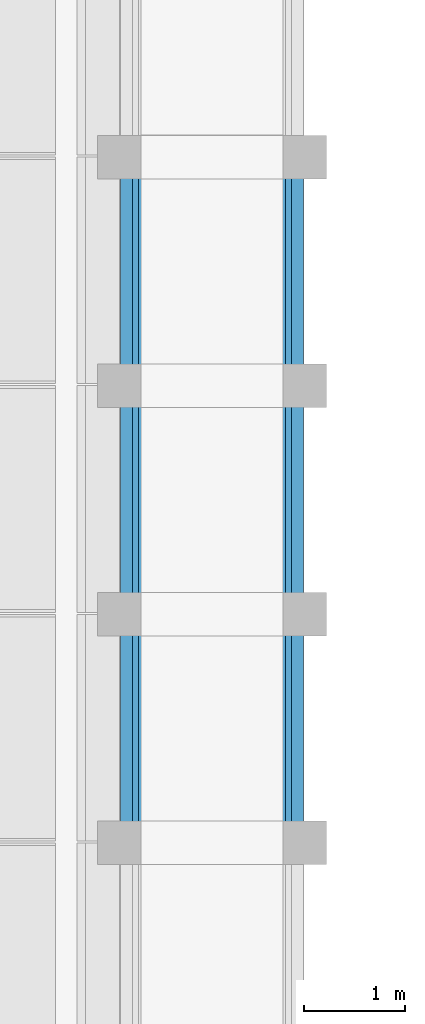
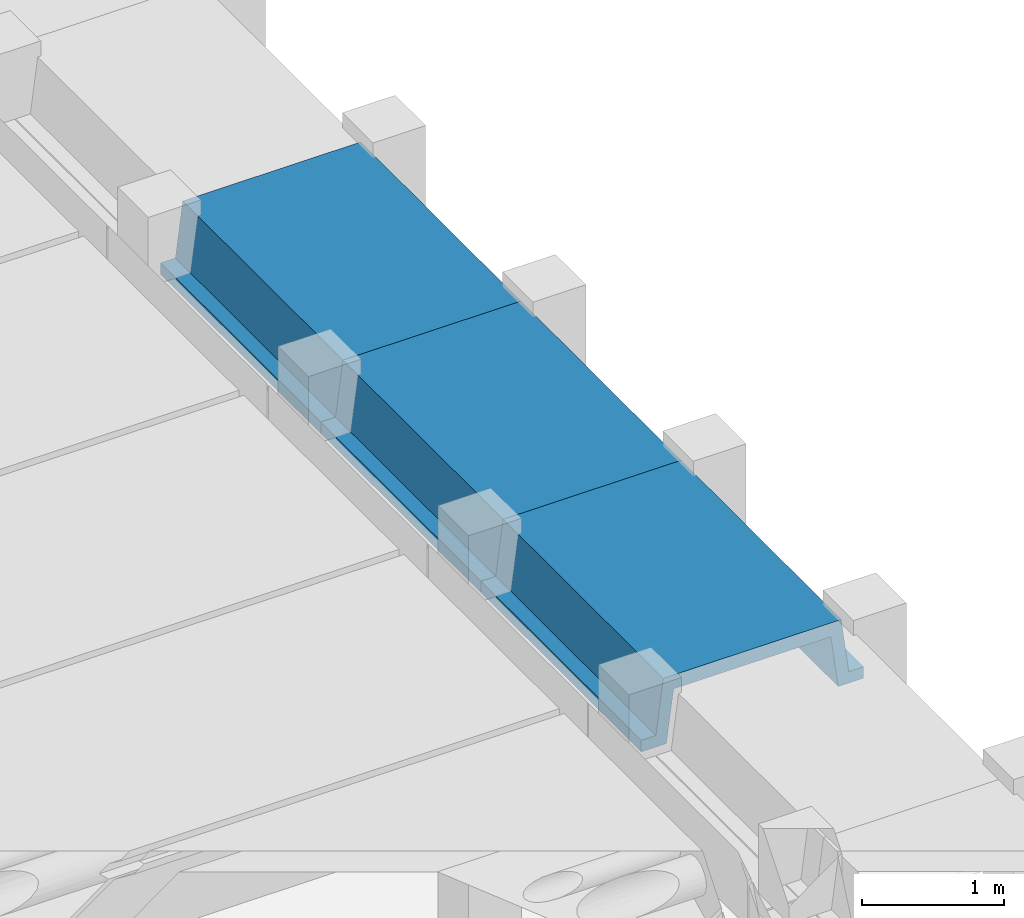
# One storey, part 6 of 18: 3 beams.
"""IFC2X3 building model written with IfcOpenShell, lengths in millimetres."""

from ifc_helpers import new_model, entity, si_unit, converted_unit, derived_unit, direction, frame, origin, place, context, subcontext, project, spatial, polyline, outline, extrude, material, type_object, element, save


model = new_model("IFC2X3")

# Units and contexts
model_context = context("Model", 3, precision=0.01, world=origin(), true_north=direction((6.12303176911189e-17, 1.0)))
body_context = subcontext(model_context, "Body", "Model", "MODEL_VIEW")
ifc_project = project(units=[si_unit("LENGTHUNIT", "METRE", prefix="MILLI"), si_unit("AREAUNIT", "SQUARE_METRE"), si_unit("VOLUMEUNIT", "CUBIC_METRE"), converted_unit("PLANEANGLEUNIT", "DEGREE", entity("IfcRatioMeasure", 0.0174532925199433), si_unit("PLANEANGLEUNIT", "RADIAN"), dimensions=[0, 0, 0, 0, 0, 0, 0]), si_unit("MASSUNIT", "GRAM", prefix="KILO"), derived_unit("MASSDENSITYUNIT", [(si_unit("MASSUNIT", "GRAM", prefix="KILO"), 1), (si_unit("LENGTHUNIT", "METRE"), -3)]), derived_unit("MOMENTOFINERTIAUNIT", [(si_unit("LENGTHUNIT", "METRE"), 4)]), si_unit("TIMEUNIT", "SECOND"), si_unit("FREQUENCYUNIT", "HERTZ"), si_unit("THERMODYNAMICTEMPERATUREUNIT", "DEGREE_CELSIUS"), derived_unit("THERMALTRANSMITTANCEUNIT", [(si_unit("MASSUNIT", "GRAM", prefix="KILO"), 1), (si_unit("THERMODYNAMICTEMPERATUREUNIT", "KELVIN"), -1), (si_unit("TIMEUNIT", "SECOND"), -3)]), derived_unit("VOLUMETRICFLOWRATEUNIT", [(si_unit("LENGTHUNIT", "METRE"), 3), (si_unit("TIMEUNIT", "SECOND"), -1)]), si_unit("ELECTRICCURRENTUNIT", "AMPERE"), si_unit("ELECTRICVOLTAGEUNIT", "VOLT"), si_unit("POWERUNIT", "WATT"), si_unit("FORCEUNIT", "NEWTON", prefix="KILO"), si_unit("ILLUMINANCEUNIT", "LUX"), si_unit("LUMINOUSFLUXUNIT", "LUMEN"), si_unit("LUMINOUSINTENSITYUNIT", "CANDELA"), derived_unit("USERDEFINED", [(si_unit("MASSUNIT", "GRAM", prefix="KILO"), -1), (si_unit("LENGTHUNIT", "METRE"), -2), (si_unit("TIMEUNIT", "SECOND"), 3), (si_unit("LUMINOUSFLUXUNIT", "LUMEN"), 1)]), derived_unit("LINEARVELOCITYUNIT", [(si_unit("LENGTHUNIT", "METRE"), 1), (si_unit("TIMEUNIT", "SECOND"), -1)]), si_unit("PRESSUREUNIT", "PASCAL"), derived_unit("USERDEFINED", [(si_unit("LENGTHUNIT", "METRE"), -2), (si_unit("MASSUNIT", "GRAM", prefix="KILO"), 1), (si_unit("TIMEUNIT", "SECOND"), -2)]), derived_unit("LINEARFORCEUNIT", [(si_unit("MASSUNIT", "GRAM", prefix="KILO"), 1), (si_unit("LENGTHUNIT", "METRE"), 1), (si_unit("TIMEUNIT", "SECOND"), -2), (si_unit("LENGTHUNIT", "METRE"), -1)]), derived_unit("PLANARFORCEUNIT", [(si_unit("MASSUNIT", "GRAM", prefix="KILO"), 1), (si_unit("LENGTHUNIT", "METRE"), 1), (si_unit("TIMEUNIT", "SECOND"), -2), (si_unit("LENGTHUNIT", "METRE"), -2)])], contexts=[model_context])

# Site, building, storey
site_placement = place(None, frame((10627.5135316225, 21939.0796949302, 0.0)))
site = spatial("IfcSite", under=ifc_project, at=site_placement, Name="Default", CompositionType="ELEMENT")
building_placement = place(site_placement, origin())
building = spatial("IfcBuilding", under=site, at=building_placement, CompositionType="ELEMENT")
storey_placement = place(building_placement, frame((0.0, 0.0, 3660.0)))
storey = spatial("IfcBuildingStorey", under=building, at=storey_placement, Name="R+1", CompositionType="ELEMENT", Elevation=3660.0)

# Beams
ifc_material = material(Name="Concrete, Precast Smooth, Light Grey")
beam_type = type_object("IfcBeamType", Name="Poutre petite:Poutre petite", PredefinedType="NOTDEFINED")
for number, where, z_axis, x_axis, name in (
    (1, (667.48646837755, 7440.92030506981, 3530.0), (0.0, 0.0, 1.0), (0.0, 1.0, 0.0), "Poutre petite:Poutre petite"),
    (2, (667.48646837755, 5180.92030506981, 3530.0), (0.0, 0.0, 1.0), (0.0, 1.0, 0.0), "Poutre petite:Poutre petite"),
    (3, (667.48646837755, 2920.92030506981, 3530.0), (0.0, 0.0, 1.0), (0.0, 1.0, 0.0), "Poutre petite:Poutre petite"),
):
    element("IfcBeam", number, at=place(storey_placement, frame(where, z_axis=z_axis, x_axis=x_axis)), inside=storey, type_object=beam_type, material=ifc_material, Name=name, ObjectType="Poutre petite:Poutre petite", context=body_context, shape_type="SweptSolid", body=[
        extrude(outline(polyline([(103.333217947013, -905.013684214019), (203.333564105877, -905.013684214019), (203.333564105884, -700.013730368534), (-246.666782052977, -640.013684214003), (-246.666782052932, 640.013497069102), (203.333564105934, 700.013543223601), (203.333564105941, 905.014058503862), (103.333217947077, 905.014058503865), (103.333217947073, 785.01349706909), (-366.666782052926, 725.013497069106), (-366.666782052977, -725.013684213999), (103.333217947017, -785.013684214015), (103.333217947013, -905.013684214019)])), frame((0.0, -0.000187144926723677, -366.666782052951), z_axis=(1.0, 0.0, 0.0), x_axis=(0.0, 0.0, -1.0)), (0.0, 0.0, 1.0), 2260.0),
    ])

save(model, "model.ifc")
